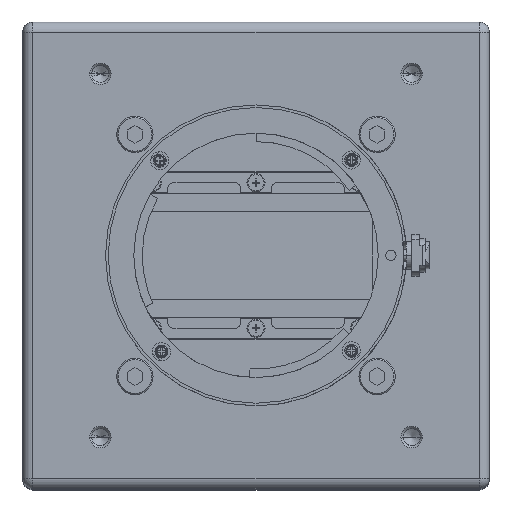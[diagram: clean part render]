
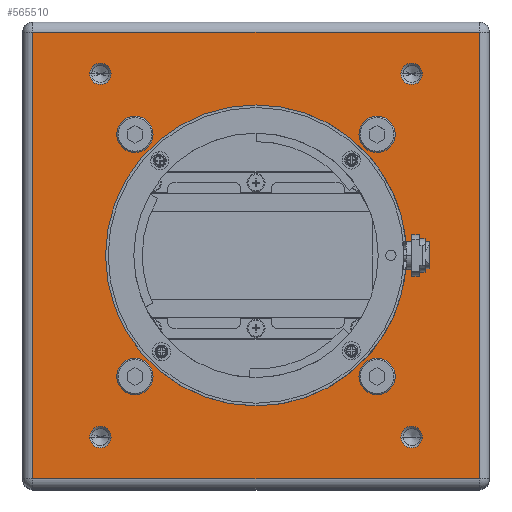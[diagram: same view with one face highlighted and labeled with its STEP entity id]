
A CAD part, top view. The second image highlights one B-rep face of the part: STEP entity #565510.
In plain terms, the highlighted planar face has unit normal (0, 0, 1).
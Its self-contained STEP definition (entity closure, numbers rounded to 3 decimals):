
#15350=CARTESIAN_POINT('',(-43.,-43.,16.5));
#15360=VERTEX_POINT('',#15350);
#15390=CARTESIAN_POINT('',(-45.215,-43.,16.5));
#15400=DIRECTION('',(1.,0.,0.));
#15410=VECTOR('',#15400,1.);
#15420=LINE('',#15390,#15410);
#15430=CARTESIAN_POINT('',(43.,-43.,16.5));
#15440=VERTEX_POINT('',#15430);
#15450=EDGE_CURVE('',#15360,#15440,#15420,.T.);
#15850=CARTESIAN_POINT('',(-43.,43.,16.5));
#15860=VERTEX_POINT('',#15850);
#15890=CARTESIAN_POINT('',(-43.,45.215,16.5));
#15900=DIRECTION('',(0.,-1.,0.));
#15910=VECTOR('',#15900,1.);
#15920=LINE('',#15890,#15910);
#15930=EDGE_CURVE('',#15860,#15360,#15920,.T.);
#16290=CARTESIAN_POINT('',(43.,43.,16.5));
#16300=VERTEX_POINT('',#16290);
#16330=CARTESIAN_POINT('',(45.207,43.,16.5));
#16340=DIRECTION('',(-1.,0.,0.));
#16350=VECTOR('',#16340,1.);
#16360=LINE('',#16330,#16350);
#16370=EDGE_CURVE('',#16300,#15860,#16360,.T.);
#79810=CARTESIAN_POINT('',(32.063,-35.,16.5));
#79820=VERTEX_POINT('',#79810);
#79980=CARTESIAN_POINT('',(27.938,-35.,16.5));
#79990=VERTEX_POINT('',#79980);
#80020=CARTESIAN_POINT('',(30.,-35.,16.5));
#80030=DIRECTION('',(0.,0.,-1.));
#80040=DIRECTION('',(1.,0.,0.));
#80050=AXIS2_PLACEMENT_3D('',#80020,#80030,#80040);
#80060=CIRCLE('',#80050,2.063);
#80070=EDGE_CURVE('',#79990,#79820,#80060,.T.);
#105610=CARTESIAN_POINT('',(-32.063,-35.,16.5));
#105620=VERTEX_POINT('',#105610);
#105650=CARTESIAN_POINT('',(-30.,-35.,16.5));
#105660=DIRECTION('',(0.,0.,1.));
#105670=DIRECTION('',(-1.,0.,0.));
#105680=AXIS2_PLACEMENT_3D('',#105650,#105660,#105670);
#105690=CIRCLE('',#105680,2.063);
#105700=CARTESIAN_POINT('',(-27.938,-35.,16.5));
#105710=VERTEX_POINT('',#105700);
#105720=EDGE_CURVE('',#105710,#105620,#105690,.T.);
#119740=CARTESIAN_POINT('',(27.938,35.,16.5));
#119750=VERTEX_POINT('',#119740);
#119830=CARTESIAN_POINT('',(32.063,35.,16.5));
#119840=VERTEX_POINT('',#119830);
#119870=CARTESIAN_POINT('',(30.,35.,16.5));
#119880=DIRECTION('',(0.,0.,1.));
#119890=DIRECTION('',(1.,0.,0.));
#119900=AXIS2_PLACEMENT_3D('',#119870,#119880,#119890);
#119910=CIRCLE('',#119900,2.063);
#119920=EDGE_CURVE('',#119750,#119840,#119910,.T.);
#131890=CARTESIAN_POINT('',(43.,-45.211,16.5));
#131900=DIRECTION('',(0.,1.,0.));
#131910=VECTOR('',#131900,1.);
#131920=LINE('',#131890,#131910);
#131930=EDGE_CURVE('',#15440,#16300,#131920,.T.);
#133580=CARTESIAN_POINT('',(-27.938,35.,16.5));
#133590=VERTEX_POINT('',#133580);
#133670=CARTESIAN_POINT('',(-32.063,35.,16.5));
#133680=VERTEX_POINT('',#133670);
#133710=CARTESIAN_POINT('',(-30.,35.,16.5));
#133720=DIRECTION('',(0.,0.,-1.));
#133730=DIRECTION('',(-1.,0.,0.));
#133740=AXIS2_PLACEMENT_3D('',#133710,#133720,#133730);
#133750=CIRCLE('',#133740,2.063);
#133760=EDGE_CURVE('',#133680,#133590,#133750,.T.);
#371350=CARTESIAN_POINT('',(26.585,-23.335,
16.5));
#371360=VERTEX_POINT('',#371350);
#371540=CARTESIAN_POINT('',(20.085,-23.335,
16.5));
#371550=VERTEX_POINT('',#371540);
#371580=CARTESIAN_POINT('',(23.335,-23.335,
16.5));
#371590=DIRECTION('',(0.,0.,1.));
#371600=DIRECTION('',(1.,0.,-0.));
#371610=AXIS2_PLACEMENT_3D('',#371580,#371590,#371600);
#371620=CIRCLE('',#371610,3.25);
#371630=EDGE_CURVE('',#371360,#371550,#371620,.T.);
#374660=CARTESIAN_POINT('',(26.585,23.335,
16.5));
#374670=VERTEX_POINT('',#374660);
#374850=CARTESIAN_POINT('',(20.085,23.335,
16.5));
#374860=VERTEX_POINT('',#374850);
#374890=CARTESIAN_POINT('',(23.335,23.335,
16.5));
#374900=DIRECTION('',(0.,0.,1.));
#374910=DIRECTION('',(1.,0.,-0.));
#374920=AXIS2_PLACEMENT_3D('',#374890,#374900,#374910);
#374930=CIRCLE('',#374920,3.25);
#374940=EDGE_CURVE('',#374670,#374860,#374930,.T.);
#377630=CARTESIAN_POINT('',(-20.085,23.335,
16.5));
#377640=VERTEX_POINT('',#377630);
#377820=CARTESIAN_POINT('',(-26.585,23.335,
16.5));
#377830=VERTEX_POINT('',#377820);
#377860=CARTESIAN_POINT('',(-23.335,23.335,
16.5));
#377870=DIRECTION('',(0.,0.,1.));
#377880=DIRECTION('',(1.,0.,-0.));
#377890=AXIS2_PLACEMENT_3D('',#377860,#377870,#377880);
#377900=CIRCLE('',#377890,3.25);
#377910=EDGE_CURVE('',#377640,#377830,#377900,.T.);
#380260=CARTESIAN_POINT('',(-20.085,-23.335,
16.5));
#380270=VERTEX_POINT('',#380260);
#380450=CARTESIAN_POINT('',(-26.585,-23.335,
16.5));
#380460=VERTEX_POINT('',#380450);
#380490=CARTESIAN_POINT('',(-23.335,-23.335,
16.5));
#380500=DIRECTION('',(0.,0.,1.));
#380510=DIRECTION('',(1.,0.,-0.));
#380520=AXIS2_PLACEMENT_3D('',#380490,#380500,#380510);
#380530=CIRCLE('',#380520,3.25);
#380540=EDGE_CURVE('',#380270,#380460,#380530,.T.);
#564850=CARTESIAN_POINT('',(0.,0.,16.5));
#564860=DIRECTION('',(0.,-0.,1.));
#564870=DIRECTION('',(0.,1.,0.));
#564880=AXIS2_PLACEMENT_3D('',#564850,#564860,#564870);
#564890=PLANE('',#564880);
#564900=EDGE_CURVE('',#105620,#105710,#105690,.T.);
#564910=ORIENTED_EDGE('',*,*,#564900,.F.);
#564920=ORIENTED_EDGE('',*,*,#105720,.F.);
#564930=EDGE_LOOP('',(#564920,#564910));
#564940=FACE_BOUND('',#564930,.T.);
#564950=CARTESIAN_POINT('',(0.,0.,16.5));
#564960=DIRECTION('',(0.,0.,-1.));
#564970=DIRECTION('',(0.,1.,0.));
#564980=AXIS2_PLACEMENT_3D('',#564950,#564960,#564970);
#564990=CIRCLE('',#564980,29.);
#565000=CARTESIAN_POINT('',(0.,-29.,16.5)
);
#565010=VERTEX_POINT('',#565000);
#565020=CARTESIAN_POINT('',(0.,29.,16.5));
#565030=VERTEX_POINT('',#565020);
#565040=EDGE_CURVE('',#565010,#565030,#564990,.T.);
#565050=ORIENTED_EDGE('',*,*,#565040,.T.);
#565060=EDGE_CURVE('',#565030,#565010,#564990,.T.);
#565070=ORIENTED_EDGE('',*,*,#565060,.T.);
#565080=EDGE_LOOP('',(#565070,#565050));
#565090=FACE_BOUND('',#565080,.T.);
#565100=EDGE_CURVE('',#374860,#374670,#374930,.T.);
#565110=ORIENTED_EDGE('',*,*,#565100,.F.);
#565120=ORIENTED_EDGE('',*,*,#374940,.F.);
#565130=EDGE_LOOP('',(#565120,#565110));
#565140=FACE_BOUND('',#565130,.T.);
#565150=EDGE_CURVE('',#377830,#377640,#377900,.T.);
#565160=ORIENTED_EDGE('',*,*,#565150,.F.);
#565170=ORIENTED_EDGE('',*,*,#377910,.F.);
#565180=EDGE_LOOP('',(#565170,#565160));
#565190=FACE_BOUND('',#565180,.T.);
#565200=EDGE_CURVE('',#371550,#371360,#371620,.T.);
#565210=ORIENTED_EDGE('',*,*,#565200,.F.);
#565220=ORIENTED_EDGE('',*,*,#371630,.F.);
#565230=EDGE_LOOP('',(#565220,#565210));
#565240=FACE_BOUND('',#565230,.T.);
#565250=EDGE_CURVE('',#380460,#380270,#380530,.T.);
#565260=ORIENTED_EDGE('',*,*,#565250,.F.);
#565270=ORIENTED_EDGE('',*,*,#380540,.F.);
#565280=EDGE_LOOP('',(#565270,#565260));
#565290=FACE_BOUND('',#565280,.T.);
#565300=ORIENTED_EDGE('',*,*,#16370,.T.);
#565310=ORIENTED_EDGE('',*,*,#131930,.T.);
#565320=ORIENTED_EDGE('',*,*,#15450,.T.);
#565330=ORIENTED_EDGE('',*,*,#15930,.T.);
#565340=EDGE_LOOP('',(#565330,#565320,#565310,#565300));
#565350=FACE_OUTER_BOUND('',#565340,.T.);
#565360=EDGE_CURVE('',#119840,#119750,#119910,.T.);
#565370=ORIENTED_EDGE('',*,*,#565360,.F.);
#565380=ORIENTED_EDGE('',*,*,#119920,.F.);
#565390=EDGE_LOOP('',(#565380,#565370));
#565400=FACE_BOUND('',#565390,.T.);
#565410=EDGE_CURVE('',#133590,#133680,#133750,.T.);
#565420=ORIENTED_EDGE('',*,*,#565410,.T.);
#565430=ORIENTED_EDGE('',*,*,#133760,.T.);
#565440=EDGE_LOOP('',(#565430,#565420));
#565450=FACE_BOUND('',#565440,.T.);
#565460=EDGE_CURVE('',#79820,#79990,#80060,.T.);
#565470=ORIENTED_EDGE('',*,*,#565460,.T.);
#565480=ORIENTED_EDGE('',*,*,#80070,.T.);
#565490=EDGE_LOOP('',(#565480,#565470));
#565500=FACE_BOUND('',#565490,.T.);
#565510=ADVANCED_FACE('',(#564940,#565090,#565140,#565190,#565240,
#565290,#565350,#565400,#565450,#565500),#564890,.T.);
